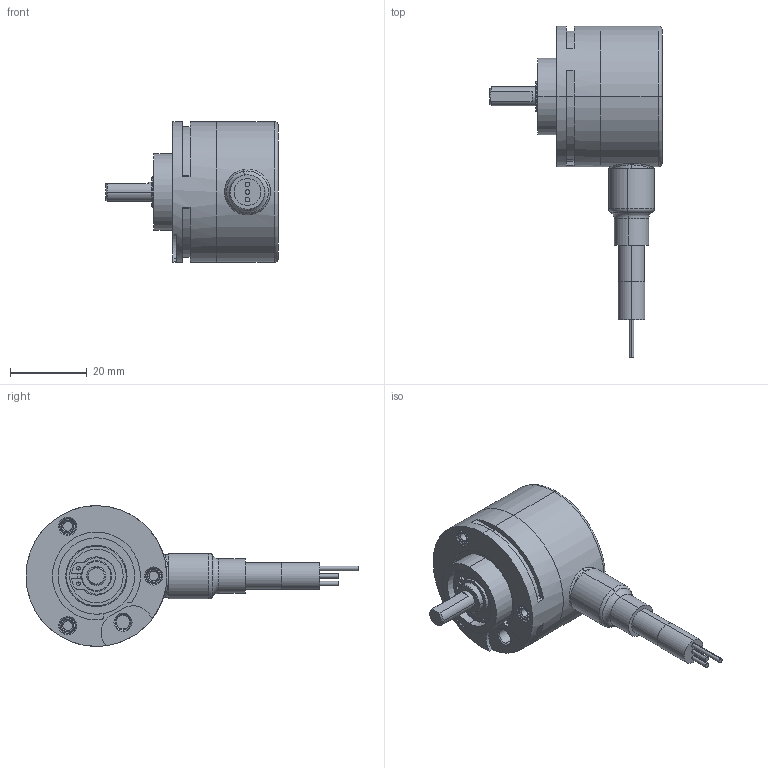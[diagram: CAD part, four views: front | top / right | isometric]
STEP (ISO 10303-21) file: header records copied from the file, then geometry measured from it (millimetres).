
FILE_DESCRIPTION (( 'STEP AP214' ), '1' );
FILE_NAME ('3700.12X2.XXXX.STEP', '2008-11-21T13:31:47', ( 'admin' ), ( 'Fritz Kübler GmbH' ), 'SwSTEP 2.0', 'SolidWorks 2008', '' );
FILE_SCHEMA (( 'AUTOMOTIVE_DESIGN' ));
Length unit declared in the file: millimetre
Products named in the file (1): 3700.12X2.XXXX
Bounding box: 45 x 86.8 x 36.8 mm (x, y, z)
Volume: 15797.3 mm3; surface area: 18315.4 mm2
Topology: 10 solids, 11 shells, 1126 faces, 2999 edges, 1882 vertices
Faces by surface type: cylinder 354, plane 353, bspline 173, torus 124, cone 81, sphere 41
Entity records: 52842 total; most frequent: CARTESIAN_POINT 15159, ORIENTED_EDGE 5872, DIRECTION 4932, EDGE_CURVE 2936, AXIS2_PLACEMENT_3D 2187, VERTEX_POINT 1848, CIRCLE 1233, EDGE_LOOP 1178
